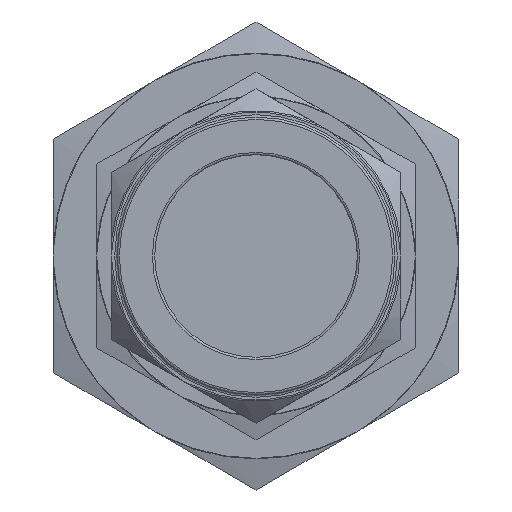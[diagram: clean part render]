
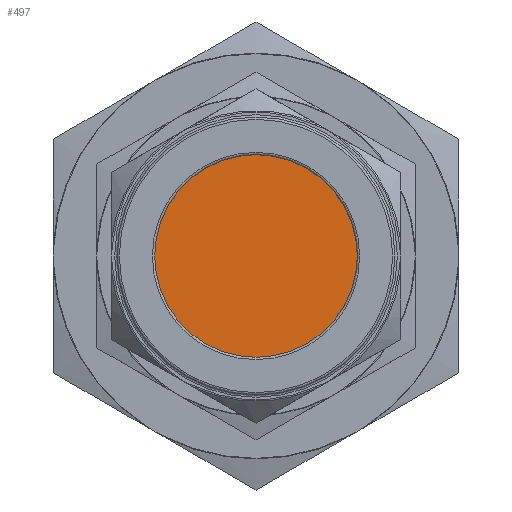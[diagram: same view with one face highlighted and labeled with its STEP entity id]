
A CAD part, left-side view. The second image highlights one B-rep face of the part: STEP entity #497.
In plain terms, the highlighted planar face has unit normal (-1, 0, 0).
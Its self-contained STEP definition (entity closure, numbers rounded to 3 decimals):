
#497 = ADVANCED_FACE( '', ( #1398 ), #1399, .F. );
#1398 = FACE_OUTER_BOUND( '', #2918, .T. );
#1399 = PLANE( '', #2919 );
#2918 = EDGE_LOOP( '', ( #7384 ) );
#2919 = AXIS2_PLACEMENT_3D( '', #7385, #7386, #7387 );
#7384 = ORIENTED_EDGE( '', *, *, #11143, .T. );
#7385 = CARTESIAN_POINT( '', ( 25.248, 0., 0. ) );
#7386 = DIRECTION( '', ( 1., 0., 0. ) );
#7387 = DIRECTION( '', ( 0., 0., -1. ) );
#11143 = EDGE_CURVE( '', #12660, #12660, #12661, .T. );
#12660 = VERTEX_POINT( '', #14923 );
#12661 = CIRCLE( '', #14924, 11.113 );
#14923 = CARTESIAN_POINT( '', ( 25.248, 0., 11.113 ) );
#14924 = AXIS2_PLACEMENT_3D( '', #20017, #20018, #20019 );
#20017 = CARTESIAN_POINT( '', ( 25.248, 0., 0. ) );
#20018 = DIRECTION( '', ( -1., 0., 0. ) );
#20019 = DIRECTION( '', ( 0., 0., 1. ) );
